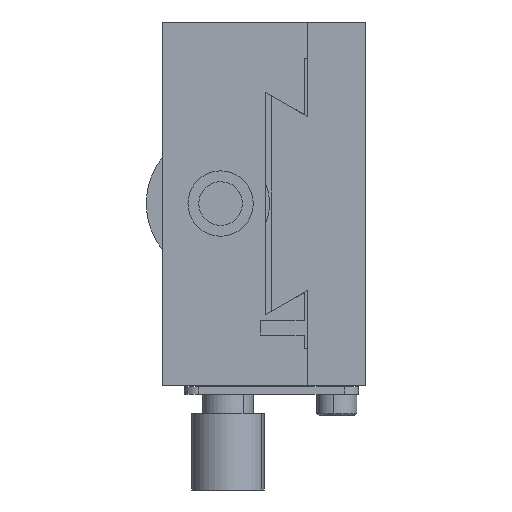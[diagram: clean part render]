
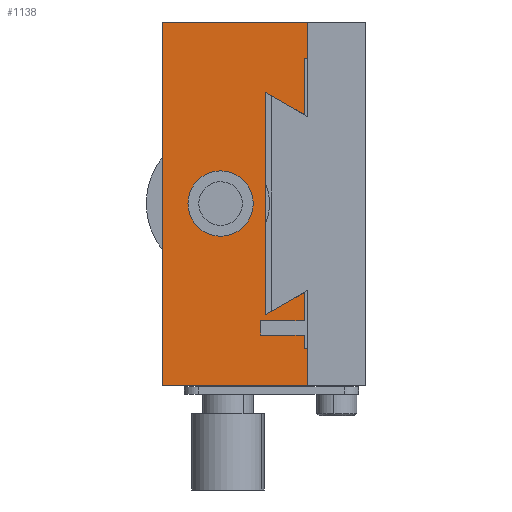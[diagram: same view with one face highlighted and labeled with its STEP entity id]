
A CAD part, left-side view. The second image highlights one B-rep face of the part: STEP entity #1138.
In plain terms, the highlighted planar face has unit normal (-1, 0, 0).
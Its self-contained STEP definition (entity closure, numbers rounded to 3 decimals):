
#723 = EDGE_CURVE ( 'NONE', #4567, #5204, #1451, .T. ) ;
#728 = EDGE_CURVE ( 'NONE', #4305, #5191, #1463, .T. ) ;
#732 = EDGE_CURVE ( 'NONE', #5045, #5130, #1468, .T. ) ;
#761 = EDGE_CURVE ( 'NONE', #4805, #5010, #1508, .T. ) ;
#766 = EDGE_CURVE ( 'NONE', #5191, #5197, #1518, .T. ) ;
#783 = EDGE_CURVE ( 'NONE', #5204, #4387, #1545, .T. ) ;
#787 = EDGE_CURVE ( 'NONE', #4805, #4349, #1551, .T. ) ;
#800 = EDGE_CURVE ( 'NONE', #4945, #4381, #1565, .T. ) ;
#887 = EDGE_LOOP ( 'NONE', ( #1340, #1425, #1385, #1363, #1361, #1300, #1370, #1334, #1327, #1333, #1238, #1376, #1365, #1237, #1349, #1415 ) ) ;
#1138 = ADVANCED_FACE ( 'NONE', ( #1707, #1717 ), #3742, .F. ) ;
#1237 = ORIENTED_EDGE ( 'NONE', *, *, #8327, .T. ) ;
#1238 = ORIENTED_EDGE ( 'NONE', *, *, #8335, .F. ) ;
#1247 = ORIENTED_EDGE ( 'NONE', *, *, #732, .F. ) ;
#1300 = ORIENTED_EDGE ( 'NONE', *, *, #8322, .T. ) ;
#1305 = ORIENTED_EDGE ( 'NONE', *, *, #8307, .F. ) ;
#1327 = ORIENTED_EDGE ( 'NONE', *, *, #723, .T. ) ;
#1333 = ORIENTED_EDGE ( 'NONE', *, *, #783, .T. ) ;
#1334 = ORIENTED_EDGE ( 'NONE', *, *, #8285, .T. ) ;
#1340 = ORIENTED_EDGE ( 'NONE', *, *, #766, .T. ) ;
#1349 = ORIENTED_EDGE ( 'NONE', *, *, #8336, .T. ) ;
#1361 = ORIENTED_EDGE ( 'NONE', *, *, #8308, .F. ) ;
#1363 = ORIENTED_EDGE ( 'NONE', *, *, #8309, .F. ) ;
#1365 = ORIENTED_EDGE ( 'NONE', *, *, #761, .T. ) ;
#1370 = ORIENTED_EDGE ( 'NONE', *, *, #8340, .F. ) ;
#1376 = ORIENTED_EDGE ( 'NONE', *, *, #787, .F. ) ;
#1385 = ORIENTED_EDGE ( 'NONE', *, *, #800, .F. ) ;
#1415 = ORIENTED_EDGE ( 'NONE', *, *, #728, .T. ) ;
#1425 = ORIENTED_EDGE ( 'NONE', *, *, #8312, .F. ) ;
#1451 = LINE ( 'NONE', #4253, #1460 ) ;
#1460 = VECTOR ( 'NONE', #4233, 1000. ) ;
#1463 = LINE ( 'NONE', #4262, #1466 ) ;
#1466 = VECTOR ( 'NONE', #4246, 1000. ) ;
#1468 = CIRCLE ( 'NONE', #4775, 4.5 ) ;
#1508 = LINE ( 'NONE', #5250, #1511 ) ;
#1511 = VECTOR ( 'NONE', #5303, 1000. ) ;
#1518 = LINE ( 'NONE', #5323, #1521 ) ;
#1521 = VECTOR ( 'NONE', #5392, 1000. ) ;
#1545 = LINE ( 'NONE', #5319, #1549 ) ;
#1549 = VECTOR ( 'NONE', #5312, 1000. ) ;
#1551 = LINE ( 'NONE', #5320, #1555 ) ;
#1555 = VECTOR ( 'NONE', #5263, 1000. ) ;
#1565 = LINE ( 'NONE', #5364, #1576 ) ;
#1576 = VECTOR ( 'NONE', #5227, 1000. ) ;
#1707 = FACE_OUTER_BOUND ( 'NONE', #887, .T. ) ;
#1717 = FACE_BOUND ( 'NONE', #3289, .T. ) ;
#1926 = CARTESIAN_POINT ( 'NONE',  ( -24.166, 9.141, -20. ) ) ;
#1927 = CARTESIAN_POINT ( 'NONE',  ( -24.166, 28.641, -25. ) ) ;
#1946 = CARTESIAN_POINT ( 'NONE',  ( -24.166, 9.141, 20. ) ) ;
#1952 = CARTESIAN_POINT ( 'NONE',  ( -24.166, 9.141, 12.252 ) ) ;
#1960 = CARTESIAN_POINT ( 'NONE',  ( -24.166, 9.141, -12.252 ) ) ;
#1991 = CARTESIAN_POINT ( 'NONE',  ( -24.166, 28.641, 25. ) ) ;
#1996 = CARTESIAN_POINT ( 'NONE',  ( -24.166, 15.141, -16.112 ) ) ;
#2937 = CARTESIAN_POINT ( 'NONE',  ( -24.166, 8.641, 20. ) ) ;
#2959 = CARTESIAN_POINT ( 'NONE',  ( -24.166, 15.141, -18.112 ) ) ;
#2960 = CARTESIAN_POINT ( 'NONE',  ( -24.166, 9.141, -18.112 ) ) ;
#2993 = CARTESIAN_POINT ( 'NONE',  ( -24.166, 8.641, 25. ) ) ;
#3022 = CARTESIAN_POINT ( 'NONE',  ( -24.166, 20.641, 4.5 ) ) ;
#3098 = CARTESIAN_POINT ( 'NONE',  ( -24.166, 20.641, -4.5 ) ) ;
#3136 = CARTESIAN_POINT ( 'NONE',  ( -24.166, 9.141, -16.112 ) ) ;
#3186 = CARTESIAN_POINT ( 'NONE',  ( -24.166, 8.641, -25. ) ) ;
#3199 = CARTESIAN_POINT ( 'NONE',  ( -24.166, 8.641, -20. ) ) ;
#3209 = CARTESIAN_POINT ( 'NONE',  ( -24.166, 14.441, 15.312 ) ) ;
#3289 = EDGE_LOOP ( 'NONE', ( #1305, #1247 ) ) ;
#3634 = DIRECTION ( 'NONE',  ( 0., 0., -1. ) ) ;
#3737 = DIRECTION ( 'NONE',  ( 1., 0., 0. ) ) ;
#3742 = PLANE ( 'NONE',  #4929 ) ;
#3792 = CARTESIAN_POINT ( 'NONE',  ( -24.166, 28.641, -25. ) ) ;
#4190 = DIRECTION ( 'NONE',  ( 0., 0., 1. ) ) ;
#4222 = DIRECTION ( 'NONE',  ( -1., 0., 0. ) ) ;
#4233 = DIRECTION ( 'NONE',  ( 0., 0., 1. ) ) ;
#4244 = CARTESIAN_POINT ( 'NONE',  ( -24.166, 20.641, 0. ) ) ;
#4246 = DIRECTION ( 'NONE',  ( 0., -1., 0. ) ) ;
#4253 = CARTESIAN_POINT ( 'NONE',  ( -24.166, 14.441, -15.312 ) ) ;
#4262 = CARTESIAN_POINT ( 'NONE',  ( -24.166, 8.641, -25. ) ) ;
#4305 = VERTEX_POINT ( 'NONE', #1927 ) ;
#4320 = VERTEX_POINT ( 'NONE', #1960 ) ;
#4349 = VERTEX_POINT ( 'NONE', #1946 ) ;
#4372 = VERTEX_POINT ( 'NONE', #1991 ) ;
#4381 = VERTEX_POINT ( 'NONE', #1926 ) ;
#4387 = VERTEX_POINT ( 'NONE', #1952 ) ;
#4398 = VERTEX_POINT ( 'NONE', #1996 ) ;
#4567 = VERTEX_POINT ( 'NONE', #6674 ) ;
#4775 = AXIS2_PLACEMENT_3D ( 'NONE', #4244, #4222, #4190 ) ;
#4805 = VERTEX_POINT ( 'NONE', #2937 ) ;
#4914 = VERTEX_POINT ( 'NONE', #2959 ) ;
#4929 = AXIS2_PLACEMENT_3D ( 'NONE', #3792, #3737, #3634 ) ;
#4945 = VERTEX_POINT ( 'NONE', #2960 ) ;
#5010 = VERTEX_POINT ( 'NONE', #2993 ) ;
#5045 = VERTEX_POINT ( 'NONE', #3022 ) ;
#5130 = VERTEX_POINT ( 'NONE', #3098 ) ;
#5154 = VERTEX_POINT ( 'NONE', #3136 ) ;
#5191 = VERTEX_POINT ( 'NONE', #3186 ) ;
#5197 = VERTEX_POINT ( 'NONE', #3199 ) ;
#5204 = VERTEX_POINT ( 'NONE', #3209 ) ;
#5227 = DIRECTION ( 'NONE',  ( 0., 0., -1. ) ) ;
#5250 = CARTESIAN_POINT ( 'NONE',  ( -24.166, 8.641, 11.963 ) ) ;
#5263 = DIRECTION ( 'NONE',  ( 0., 1., 0. ) ) ;
#5303 = DIRECTION ( 'NONE',  ( 0., 0., 1. ) ) ;
#5312 = DIRECTION ( 'NONE',  ( 0., -0.866, -0.5 ) ) ;
#5319 = CARTESIAN_POINT ( 'NONE',  ( -24.166, 14.441, 15.312 ) ) ;
#5320 = CARTESIAN_POINT ( 'NONE',  ( -24.166, 8.641, 20. ) ) ;
#5323 = CARTESIAN_POINT ( 'NONE',  ( -24.166, 8.641, -25. ) ) ;
#5364 = CARTESIAN_POINT ( 'NONE',  ( -24.166, 9.141, -20. ) ) ;
#5392 = DIRECTION ( 'NONE',  ( 0., 0., 1. ) ) ;
#5888 = AXIS2_PLACEMENT_3D ( 'NONE', #8103, #8104, #8105 ) ;
#6674 = CARTESIAN_POINT ( 'NONE',  ( -24.166, 14.441, -15.312 ) ) ;
#7381 = LINE ( 'NONE', #8044, #7399 ) ;
#7399 = VECTOR ( 'NONE', #8040, 1000. ) ;
#7431 = CIRCLE ( 'NONE', #5888, 4.5 ) ;
#7432 = LINE ( 'NONE', #8097, #7434 ) ;
#7433 = LINE ( 'NONE', #8106, #7436 ) ;
#7434 = VECTOR ( 'NONE', #8098, 1000. ) ;
#7436 = VECTOR ( 'NONE', #8108, 1000. ) ;
#7438 = LINE ( 'NONE', #8112, #7441 ) ;
#7441 = VECTOR ( 'NONE', #8113, 1000. ) ;
#7454 = LINE ( 'NONE', #8131, #7456 ) ;
#7456 = VECTOR ( 'NONE', #8132, 1000. ) ;
#7461 = LINE ( 'NONE', #8151, #7464 ) ;
#7464 = VECTOR ( 'NONE', #8152, 1000. ) ;
#7474 = LINE ( 'NONE', #8163, #7476 ) ;
#7475 = LINE ( 'NONE', #8173, #7478 ) ;
#7476 = VECTOR ( 'NONE', #8164, 1000. ) ;
#7478 = VECTOR ( 'NONE', #8174, 1000. ) ;
#7482 = LINE ( 'NONE', #8181, #7485 ) ;
#7485 = VECTOR ( 'NONE', #8182, 1000. ) ;
#8040 = DIRECTION ( 'NONE',  ( 0., 0.866, -0.5 ) ) ;
#8044 = CARTESIAN_POINT ( 'NONE',  ( -24.166, 14.441, -15.312 ) ) ;
#8097 = CARTESIAN_POINT ( 'NONE',  ( -24.166, 15.141, -18.112 ) ) ;
#8098 = DIRECTION ( 'NONE',  ( 0., 0., -1. ) ) ;
#8103 = CARTESIAN_POINT ( 'NONE',  ( -24.166, 20.641, 0. ) ) ;
#8104 = DIRECTION ( 'NONE',  ( -1., 0., 0. ) ) ;
#8105 = DIRECTION ( 'NONE',  ( 0., 0., 1. ) ) ;
#8106 = CARTESIAN_POINT ( 'NONE',  ( -24.166, 15.141, -18.112 ) ) ;
#8108 = DIRECTION ( 'NONE',  ( 0., -1., 0. ) ) ;
#8112 = CARTESIAN_POINT ( 'NONE',  ( -24.166, 8.641, -20. ) ) ;
#8113 = DIRECTION ( 'NONE',  ( 0., -1., 0. ) ) ;
#8131 = CARTESIAN_POINT ( 'NONE',  ( -24.166, 15.141, -16.112 ) ) ;
#8132 = DIRECTION ( 'NONE',  ( 0., -1., 0. ) ) ;
#8151 = CARTESIAN_POINT ( 'NONE',  ( -24.166, 8.641, 25. ) ) ;
#8152 = DIRECTION ( 'NONE',  ( 0., 1., 0. ) ) ;
#8163 = CARTESIAN_POINT ( 'NONE',  ( -24.166, 9.141, 20. ) ) ;
#8164 = DIRECTION ( 'NONE',  ( 0., 0., -1. ) ) ;
#8173 = CARTESIAN_POINT ( 'NONE',  ( -24.166, 28.641, -25. ) ) ;
#8174 = DIRECTION ( 'NONE',  ( 0., 0., -1. ) ) ;
#8181 = CARTESIAN_POINT ( 'NONE',  ( -24.166, 9.141, -20. ) ) ;
#8182 = DIRECTION ( 'NONE',  ( 0., 0., -1. ) ) ;
#8285 = EDGE_CURVE ( 'NONE', #4320, #4567, #7381, .T. ) ;
#8307 = EDGE_CURVE ( 'NONE', #5130, #5045, #7431, .T. ) ;
#8308 = EDGE_CURVE ( 'NONE', #4398, #4914, #7432, .T. ) ;
#8309 = EDGE_CURVE ( 'NONE', #4914, #4945, #7433, .T. ) ;
#8312 = EDGE_CURVE ( 'NONE', #4381, #5197, #7438, .T. ) ;
#8322 = EDGE_CURVE ( 'NONE', #4398, #5154, #7454, .T. ) ;
#8327 = EDGE_CURVE ( 'NONE', #5010, #4372, #7461, .T. ) ;
#8335 = EDGE_CURVE ( 'NONE', #4349, #4387, #7474, .T. ) ;
#8336 = EDGE_CURVE ( 'NONE', #4372, #4305, #7475, .T. ) ;
#8340 = EDGE_CURVE ( 'NONE', #4320, #5154, #7482, .T. ) ;
